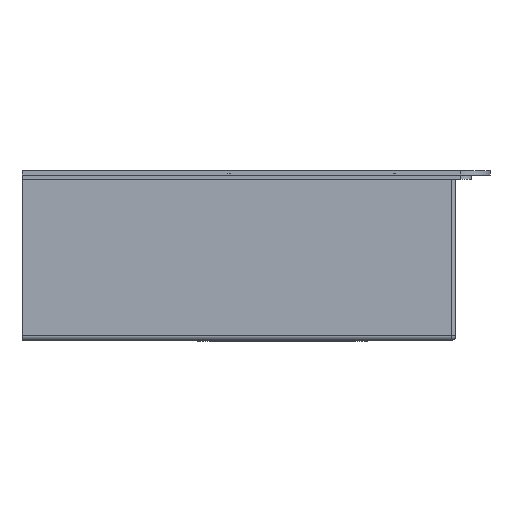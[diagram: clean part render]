
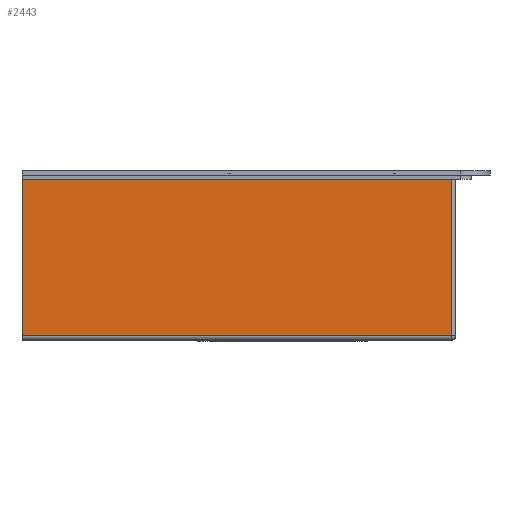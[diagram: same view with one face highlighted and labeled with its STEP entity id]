
A CAD part, front view. The second image highlights one B-rep face of the part: STEP entity #2443.
In plain terms, the highlighted planar face has unit normal (0, -1, 0).
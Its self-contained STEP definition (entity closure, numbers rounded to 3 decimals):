
#743 = EDGE_CURVE ( 'NONE', #54739, #20628, #6452, .T. ) ;
#1051 = CARTESIAN_POINT ( 'NONE',  ( 54.728, -274.888, -77. ) ) ;
#1643 = ORIENTED_EDGE ( 'NONE', *, *, #53843, .T. ) ;
#2443 = ADVANCED_FACE ( 'NONE', ( #18164 ), #7691, .F. ) ;
#2701 = VECTOR ( 'NONE', #23429, 1000. ) ;
#3968 = DIRECTION ( 'NONE',  ( -1., 0., 0. ) ) ;
#4274 = EDGE_CURVE ( 'NONE', #54183, #54739, #54601, .T. ) ;
#6452 = LINE ( 'NONE', #43002, #32393 ) ;
#6992 = VERTEX_POINT ( 'NONE', #19980 ) ;
#7691 = PLANE ( 'NONE',  #21895 ) ;
#11213 = LINE ( 'NONE', #31591, #37156 ) ;
#16222 = EDGE_CURVE ( 'NONE', #54183, #6992, #23965, .T. ) ;
#17531 = CARTESIAN_POINT ( 'NONE',  ( 54.728, -274.888, -4. ) ) ;
#18164 = FACE_OUTER_BOUND ( 'NONE', #44648, .T. ) ;
#19980 = CARTESIAN_POINT ( 'NONE',  ( 249.728, -274.888, -75. ) ) ;
#20628 = VERTEX_POINT ( 'NONE', #54190 ) ;
#20884 = CARTESIAN_POINT ( 'NONE',  ( 54.728, -274.888, -77. ) ) ;
#21895 = AXIS2_PLACEMENT_3D ( 'NONE', #20884, #61355, #3968 ) ;
#23429 = DIRECTION ( 'NONE',  ( 0., 0., 1. ) ) ;
#23965 = LINE ( 'NONE', #46020, #35378 ) ;
#31591 = CARTESIAN_POINT ( 'NONE',  ( 249.728, -274.888, -77. ) ) ;
#31958 = DIRECTION ( 'NONE',  ( 1., 0., 0. ) ) ;
#32393 = VECTOR ( 'NONE', #53654, 1000. ) ;
#33465 = ORIENTED_EDGE ( 'NONE', *, *, #743, .F. ) ;
#35378 = VECTOR ( 'NONE', #31958, 1000. ) ;
#35954 = ORIENTED_EDGE ( 'NONE', *, *, #16222, .T. ) ;
#37156 = VECTOR ( 'NONE', #46057, 1000. ) ;
#38946 = CARTESIAN_POINT ( 'NONE',  ( 54.728, -274.888, -75. ) ) ;
#43002 = CARTESIAN_POINT ( 'NONE',  ( 249.728, -274.888, -4. ) ) ;
#44648 = EDGE_LOOP ( 'NONE', ( #1643, #33465, #52271, #35954 ) ) ;
#46020 = CARTESIAN_POINT ( 'NONE',  ( 54.728, -274.888, -75. ) ) ;
#46057 = DIRECTION ( 'NONE',  ( 0., 0., 1. ) ) ;
#52271 = ORIENTED_EDGE ( 'NONE', *, *, #4274, .F. ) ;
#53654 = DIRECTION ( 'NONE',  ( 1., 0., 0. ) ) ;
#53843 = EDGE_CURVE ( 'NONE', #6992, #20628, #11213, .T. ) ;
#54183 = VERTEX_POINT ( 'NONE', #38946 ) ;
#54190 = CARTESIAN_POINT ( 'NONE',  ( 249.728, -274.888, -4. ) ) ;
#54601 = LINE ( 'NONE', #1051, #2701 ) ;
#54739 = VERTEX_POINT ( 'NONE', #17531 ) ;
#61355 = DIRECTION ( 'NONE',  ( 0., 1., 0. ) ) ;
